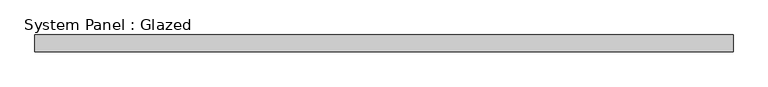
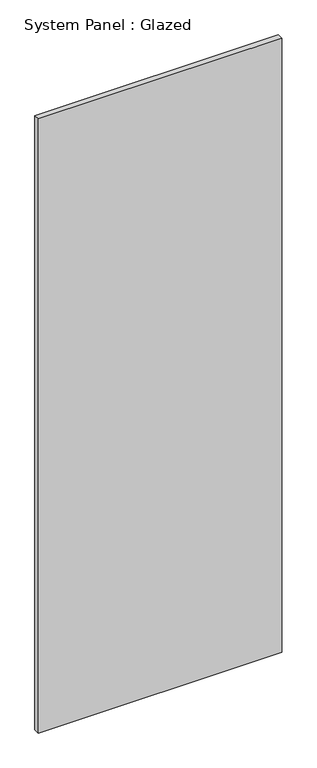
"""IFC4 building model written with IfcOpenShell, lengths in millimetres: plate geometry, System Panel : Glazed."""

from ifc_helpers import new_model, si_unit, origin, origin_with_axes, place, context, project, spatial, polyline, outline, extrude, source, transform, mapped, element, save


def system_panel_glazed_15ccfc44(model_context):
    return source(origin(), model_context, "Body", "SweptSolid", [
        extrude(outline(polyline([(525.0000002, -25.0), (-525.0000002, -25.0), (-525.0000002, 0.0), (525.0000002, 0.0), (525.0000002, -25.0)])), origin_with_axes(), (0.0, 0.0, 1.0), 2800.0),
    ])


if __name__ == "__main__":
    model = new_model("IFC4")
    model_context = context("Model", 3, world=origin())
    ifc_project = project(units=[si_unit("LENGTHUNIT", "METRE", prefix="MILLI")], contexts=[model_context])
    site = spatial("IfcSite", under=ifc_project)
    building = spatial("IfcBuilding", under=site)
    placement = place(None, origin())
    system_panel_glazed_shape = system_panel_glazed_15ccfc44(model_context)
    element("IfcPlate", 1, ObjectType="System Panel : Glazed", at=placement, inside=building, context=model_context, shape_type="MappedRepresentation", body=[
        mapped(system_panel_glazed_shape, transform((0.0, 0.0, 0.0), x_axis=(1.0, 0.0, 0.0), y_axis=(0.0, 1.0, 0.0), z_axis=(0.0, 0.0, 1.0))),
    ])
    save(model, "model.ifc")
